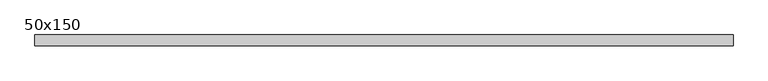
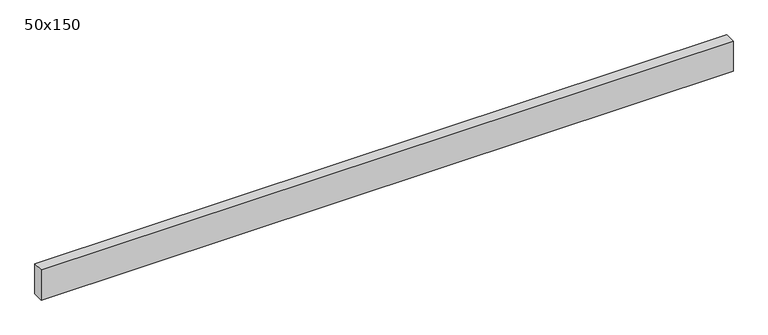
"""IFC4 building model written with IfcOpenShell, lengths in millimetres: beam geometry, Graded Timber : 50x150."""

from ifc_helpers import new_model, si_unit, frame, origin, place, context, project, spatial, polyline, outline, extrude, source, transform, mapped, element, save


def beam_50x150_c9c5d9b4(model_context):
    return source(origin(), model_context, "Body", "SweptSolid", [
        extrude(outline(polyline([(1618.5, 25.0), (1618.5, -25.0), (-1618.5, -25.0), (-1618.5, 25.0), (1618.5, 25.0)])), frame((0.0, 0.0, -75.0), z_axis=(0.0, 0.0, 1.0), x_axis=(1.0, 0.0, 0.0)), (0.0, 0.0, 1.0), 150.0),
    ])


if __name__ == "__main__":
    model = new_model("IFC4")
    model_context = context("Model", 3, world=origin())
    ifc_project = project(units=[si_unit("LENGTHUNIT", "METRE", prefix="MILLI")], contexts=[model_context])
    site = spatial("IfcSite", under=ifc_project)
    building = spatial("IfcBuilding", under=site)
    placement = place(None, origin())
    beam_50x150_shape = beam_50x150_c9c5d9b4(model_context)
    element("IfcBeam", 1, ObjectType="Graded Timber : 50x150", at=placement, inside=building, context=model_context, shape_type="MappedRepresentation", body=[
        mapped(beam_50x150_shape, transform((0.0, 0.0, 0.0), x_axis=(1.0, 0.0, 0.0), y_axis=(0.0, 1.0, 0.0), z_axis=(0.0, 0.0, 1.0))),
    ])
    save(model, "model.ifc")
